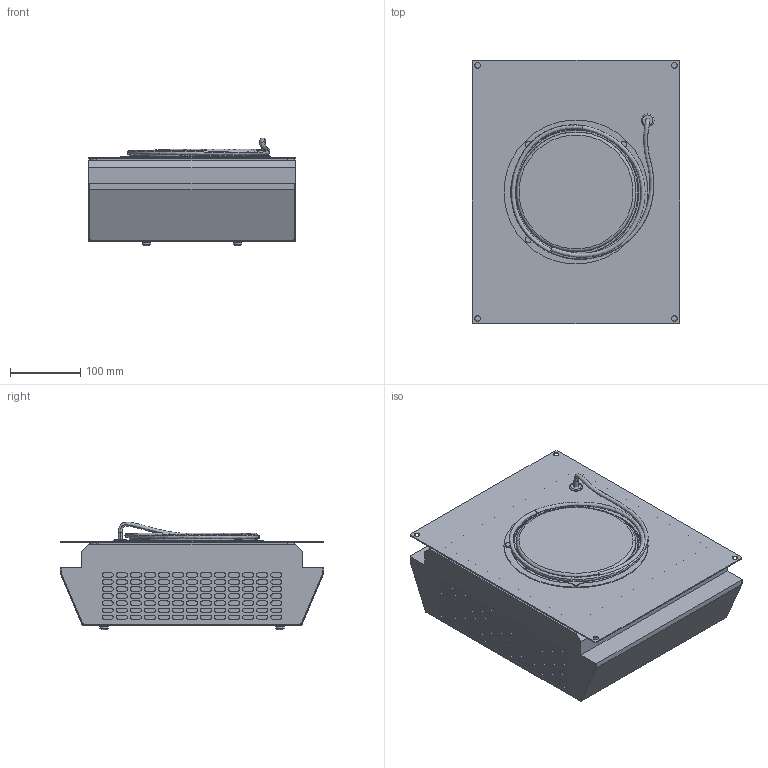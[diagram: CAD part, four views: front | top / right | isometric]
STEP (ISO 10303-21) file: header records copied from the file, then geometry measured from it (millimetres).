
FILE_DESCRIPTION (( 'STEP AP214' ), '1' );
FILE_NAME ('T19yxxxB54.STEP', '2023-11-22T11:34:56', ( '' ), ( '' ), 'SwSTEP 2.0', 'SolidWorks 2022', '' );
FILE_SCHEMA (( 'AUTOMOTIVE_DESIGN' ));
Length unit declared in the file: millimetre
Products named in the file (11): DT-04187DSI_feritoie aperte semplificato; T19yxxxB54; DT-03557DSI_ver. termosaldata; Passacavo PC-7142_semplificata; RD-6.4x12-PA_semplificata; 192_semplificata; RD-6.4x12-PA; Parte1^DT-04298DSI_semplificata; DT-03271DSI_Semplificata<A macchina>; VT-UNI8112-M6X12_semplificata; DT-03273DSI
Assembly tree (15 placements, depth 2):
  T19yxxxB54
    DT-03271DSI_Semplificata<A macchina>
    DT-04187DSI_feritoie aperte semplificato
    DT-03273DSI
    192_semplificata
    VT-UNI8112-M6X12_semplificata  x4
    RD-6.4x12-PA
    RD-6.4x12-PA_semplificata  x3
    DT-03557DSI_ver. termosaldata
    Passacavo PC-7142_semplificata
    Parte1^DT-04298DSI_semplificata
Bounding box: 295 x 375 x 153.29 mm (x, y, z)
Surface area: 1124743 mm2
Topology: 15 solids, 15 shells, 1188 faces, 2846 edges, 1872 vertices
Faces by surface type: plane 667, cylinder 471, torus 24, bspline 16, sphere 8, cone 2
Entity records: 37862 total; most frequent: CARTESIAN_POINT 7197, DIRECTION 6065, ORIENTED_EDGE 5576, EDGE_CURVE 2788, AXIS2_PLACEMENT_3D 2143, VERTEX_POINT 1837, VECTOR 1779, LINE 1779
